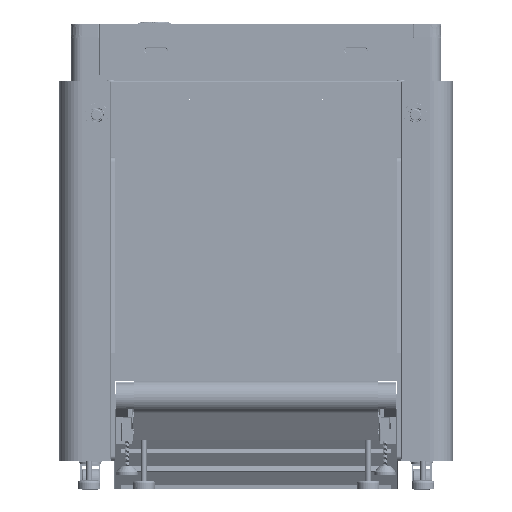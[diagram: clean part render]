
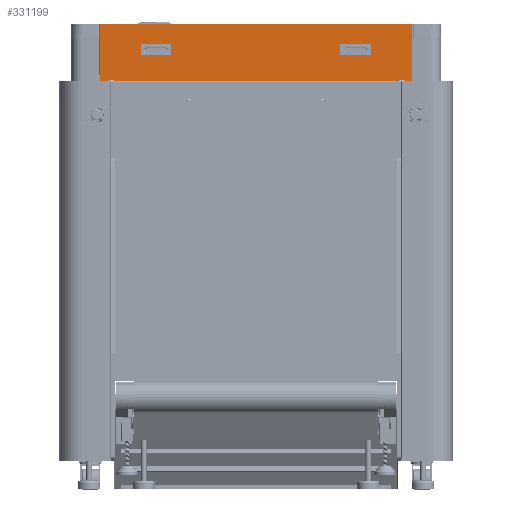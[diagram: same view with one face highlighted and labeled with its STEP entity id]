
A CAD part, front view. The second image highlights one B-rep face of the part: STEP entity #331199.
In plain terms, the highlighted planar face has unit normal (0, -1, 0) as drawn and (0, 1, 0) by its records, which use the part's own axes.
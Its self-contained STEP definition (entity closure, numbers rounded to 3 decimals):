
#327976=DIRECTION('',(0.,0.,-1.));
#327977=VECTOR('',#327976,1115.);
#327978=CARTESIAN_POINT('',(27.,-199.7,1116.5));
#327979=LINE('',#327978,#327977);
#327983=DIRECTION('',(1.,0.,0.));
#327984=VECTOR('',#327983,0.2);
#327985=CARTESIAN_POINT('',(229.8,-199.7,0.));
#327986=LINE('',#327985,#327984);
#327990=DIRECTION('',(0.,0.,-1.));
#327991=VECTOR('',#327990,1.5);
#327992=CARTESIAN_POINT('',(229.8,-199.7,1118.));
#327993=LINE('',#327992,#327991);
#327997=DIRECTION('',(-1.,0.,0.));
#327998=VECTOR('',#327997,20.);
#327999=CARTESIAN_POINT('',(47.,-199.7,1116.5));
#328000=LINE('',#327999,#327998);
#328004=DIRECTION('',(1.,0.,0.));
#328005=VECTOR('',#328004,30.);
#328006=CARTESIAN_POINT('',(121.5,-199.7,968.));
#328007=LINE('',#328006,#328005);
#328011=DIRECTION('',(0.,0.,-1.));
#328012=VECTOR('',#328011,104.);
#328013=CARTESIAN_POINT('',(151.5,-199.7,968.));
#328014=LINE('',#328013,#328012);
#328018=DIRECTION('',(-1.,0.,0.));
#328019=VECTOR('',#328018,30.);
#328020=CARTESIAN_POINT('',(151.5,-199.7,864.));
#328021=LINE('',#328020,#328019);
#328025=DIRECTION('',(0.,0.,1.));
#328026=VECTOR('',#328025,104.);
#328027=CARTESIAN_POINT('',(121.5,-199.7,864.));
#328028=LINE('',#328027,#328026);
#328032=DIRECTION('',(0.,0.,-1.));
#328033=VECTOR('',#328032,104.);
#328034=CARTESIAN_POINT('',(151.5,-199.7,254.));
#328035=LINE('',#328034,#328033);
#328039=DIRECTION('',(-1.,0.,0.));
#328040=VECTOR('',#328039,30.);
#328041=CARTESIAN_POINT('',(151.5,-199.7,150.));
#328042=LINE('',#328041,#328040);
#328046=DIRECTION('',(0.,0.,1.));
#328047=VECTOR('',#328046,104.);
#328048=CARTESIAN_POINT('',(121.5,-199.7,150.));
#328049=LINE('',#328048,#328047);
#328053=DIRECTION('',(1.,0.,0.));
#328054=VECTOR('',#328053,30.);
#328055=CARTESIAN_POINT('',(121.5,-199.7,254.));
#328056=LINE('',#328055,#328054);
#328060=DIRECTION('',(-1.,0.,0.));
#328061=VECTOR('',#328060,20.);
#328062=CARTESIAN_POINT('',(47.,-199.7,1.5));
#328063=LINE('',#328062,#328061);
#329020=DIRECTION('',(1.,0.,0.));
#329021=VECTOR('',#329020,182.8);
#329022=CARTESIAN_POINT('',(47.,-199.7,1116.5));
#329023=LINE('',#329022,#329021);
#329260=DIRECTION('',(-1.,0.,0.));
#329261=VECTOR('',#329260,182.8);
#329262=CARTESIAN_POINT('',(229.8,-199.7,1.5));
#329263=LINE('',#329262,#329261);
#329418=DIRECTION('',(0.,0.,1.));
#329419=VECTOR('',#329418,1.5);
#329420=CARTESIAN_POINT('',(229.8,-199.7,0.));
#329421=LINE('',#329420,#329419);
#329751=DIRECTION('',(1.,0.,0.));
#329752=VECTOR('',#329751,0.2);
#329753=CARTESIAN_POINT('',(229.8,-199.7,1118.));
#329754=LINE('',#329753,#329752);
#329772=DIRECTION('',(0.,0.,-1.));
#329773=VECTOR('',#329772,1118.);
#329774=CARTESIAN_POINT('',(230.,-199.7,1118.));
#329775=LINE('',#329774,#329773);
#330510=CARTESIAN_POINT('',(27.,-199.7,1116.5));
#330511=CARTESIAN_POINT('',(27.,-199.7,1.5));
#330512=VERTEX_POINT('',#330510);
#330513=VERTEX_POINT('',#330511);
#330554=CARTESIAN_POINT('',(47.,-199.7,1.5));
#330555=VERTEX_POINT('',#330554);
#330556=CARTESIAN_POINT('',(229.8,-199.7,1.5));
#330557=VERTEX_POINT('',#330556);
#330558=CARTESIAN_POINT('',(229.8,-199.7,0.));
#330559=VERTEX_POINT('',#330558);
#330560=CARTESIAN_POINT('',(230.,-199.7,0.));
#330561=VERTEX_POINT('',#330560);
#330562=CARTESIAN_POINT('',(230.,-199.7,1118.));
#330563=VERTEX_POINT('',#330562);
#330564=CARTESIAN_POINT('',(229.8,-199.7,1118.));
#330565=VERTEX_POINT('',#330564);
#330566=CARTESIAN_POINT('',(229.8,-199.7,1116.5));
#330567=VERTEX_POINT('',#330566);
#330568=CARTESIAN_POINT('',(47.,-199.7,1116.5));
#330569=VERTEX_POINT('',#330568);
#330570=CARTESIAN_POINT('',(121.5,-199.7,968.));
#330571=CARTESIAN_POINT('',(151.5,-199.7,968.));
#330572=VERTEX_POINT('',#330570);
#330573=VERTEX_POINT('',#330571);
#330574=CARTESIAN_POINT('',(151.5,-199.7,864.));
#330575=VERTEX_POINT('',#330574);
#330576=CARTESIAN_POINT('',(121.5,-199.7,864.));
#330577=VERTEX_POINT('',#330576);
#330578=CARTESIAN_POINT('',(151.5,-199.7,254.));
#330579=CARTESIAN_POINT('',(151.5,-199.7,150.));
#330580=VERTEX_POINT('',#330578);
#330581=VERTEX_POINT('',#330579);
#330582=CARTESIAN_POINT('',(121.5,-199.7,150.));
#330583=VERTEX_POINT('',#330582);
#330584=CARTESIAN_POINT('',(121.5,-199.7,254.));
#330585=VERTEX_POINT('',#330584);
#331153=CARTESIAN_POINT('',(231.5,-199.7,0.));
#331154=DIRECTION('',(0.,1.,0.));
#331155=DIRECTION('',(-1.,0.,0.));
#331156=AXIS2_PLACEMENT_3D('',#331153,#331154,#331155);
#331157=PLANE('',#331156);
#331158=ORIENTED_EDGE('',*,*,#331097,.T.);
#331160=ORIENTED_EDGE('',*,*,#331159,.F.);
#331162=ORIENTED_EDGE('',*,*,#331161,.F.);
#331164=ORIENTED_EDGE('',*,*,#331163,.F.);
#331166=ORIENTED_EDGE('',*,*,#331165,.T.);
#331168=ORIENTED_EDGE('',*,*,#331167,.F.);
#331170=ORIENTED_EDGE('',*,*,#331169,.F.);
#331172=ORIENTED_EDGE('',*,*,#331171,.T.);
#331174=ORIENTED_EDGE('',*,*,#331173,.F.);
#331176=ORIENTED_EDGE('',*,*,#331175,.T.);
#331177=EDGE_LOOP('',(#331158,#331160,#331162,#331164,#331166,#331168,#331170,
#331172,#331174,#331176));
#331178=FACE_OUTER_BOUND('',#331177,.F.);
#331180=ORIENTED_EDGE('',*,*,#331179,.T.);
#331182=ORIENTED_EDGE('',*,*,#331181,.T.);
#331184=ORIENTED_EDGE('',*,*,#331183,.T.);
#331186=ORIENTED_EDGE('',*,*,#331185,.T.);
#331187=EDGE_LOOP('',(#331180,#331182,#331184,#331186));
#331188=FACE_BOUND('',#331187,.F.);
#331190=ORIENTED_EDGE('',*,*,#331189,.T.);
#331192=ORIENTED_EDGE('',*,*,#331191,.T.);
#331194=ORIENTED_EDGE('',*,*,#331193,.T.);
#331196=ORIENTED_EDGE('',*,*,#331195,.T.);
#331197=EDGE_LOOP('',(#331190,#331192,#331194,#331196));
#331198=FACE_BOUND('',#331197,.F.);
#331097=EDGE_CURVE('',#330512,#330513,#327979,.T.);
#331159=EDGE_CURVE('',#330555,#330513,#328063,.T.);
#331161=EDGE_CURVE('',#330557,#330555,#329263,.T.);
#331163=EDGE_CURVE('',#330559,#330557,#329421,.T.);
#331165=EDGE_CURVE('',#330559,#330561,#327986,.T.);
#331167=EDGE_CURVE('',#330563,#330561,#329775,.T.);
#331169=EDGE_CURVE('',#330565,#330563,#329754,.T.);
#331171=EDGE_CURVE('',#330565,#330567,#327993,.T.);
#331173=EDGE_CURVE('',#330569,#330567,#329023,.T.);
#331175=EDGE_CURVE('',#330569,#330512,#328000,.T.);
#331179=EDGE_CURVE('',#330572,#330573,#328007,.T.);
#331181=EDGE_CURVE('',#330573,#330575,#328014,.T.);
#331183=EDGE_CURVE('',#330575,#330577,#328021,.T.);
#331185=EDGE_CURVE('',#330577,#330572,#328028,.T.);
#331189=EDGE_CURVE('',#330580,#330581,#328035,.T.);
#331191=EDGE_CURVE('',#330581,#330583,#328042,.T.);
#331193=EDGE_CURVE('',#330583,#330585,#328049,.T.);
#331195=EDGE_CURVE('',#330585,#330580,#328056,.T.);
#331199=ADVANCED_FACE('',(#331178,#331188,#331198),#331157,.T.);
